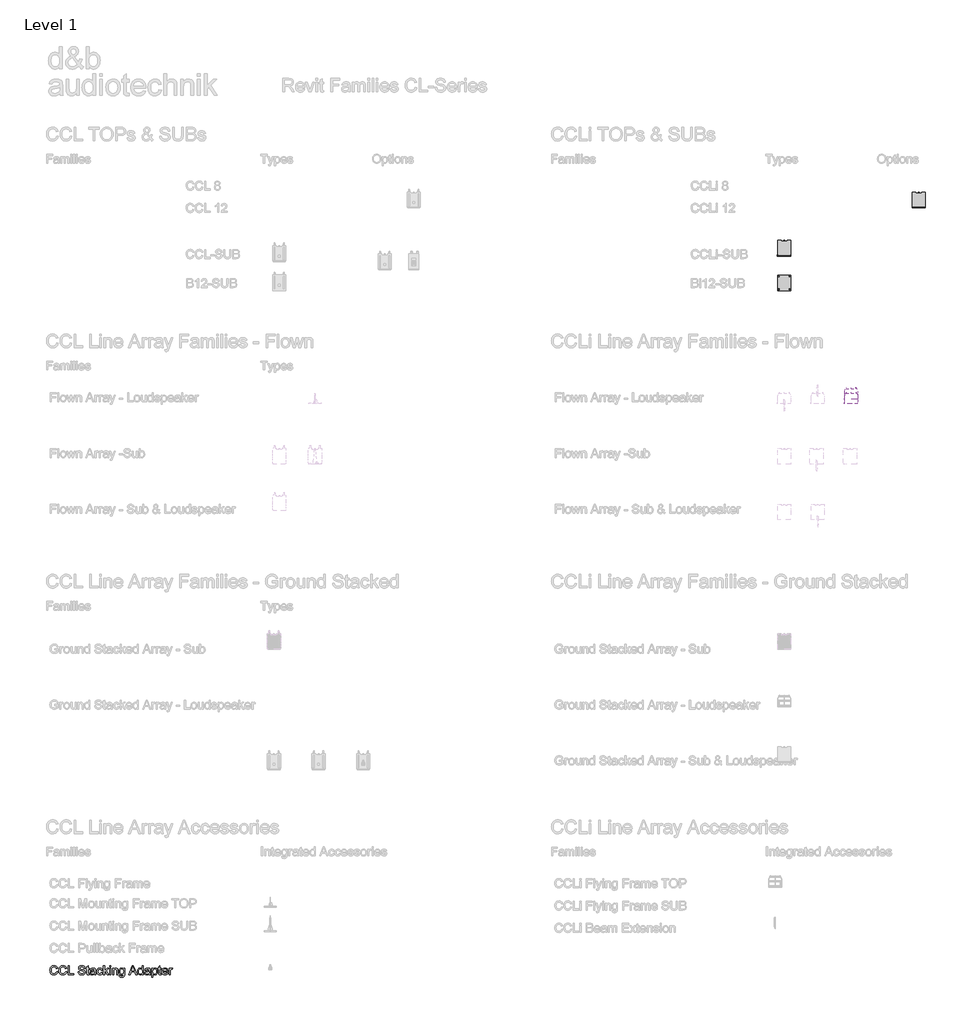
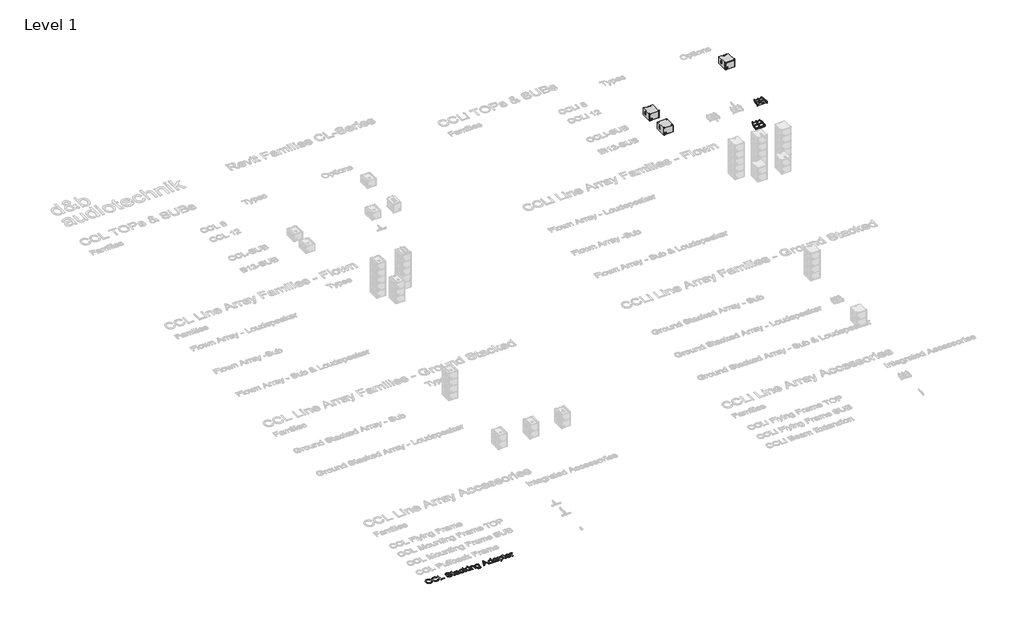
# One storey, part 2 of 31: 6 proxies.
"""IFC4 building model written with IfcOpenShell, lengths in millimetres."""

from ifc_helpers import new_model, si_unit, origin, origin_with_axes, place, context, project, spatial, polyline, outline, extrude, transform, mapped, element, save
from components import communication_devices_898eba8c, communication_devices_964db2fb, communication_devices_adbe50ae, communication_devices_fb72d271, communication_devices_d598217c, communication_devices_39887777, bi12_sub_8aa10a98

model = new_model("IFC4")

# Units and contexts
model_context = context("Model", 3, world=origin())
ifc_project = project(units=[si_unit("LENGTHUNIT", "METRE", prefix="MILLI")], contexts=[model_context])

# Site, building, storey
site = spatial("IfcSite", under=ifc_project)
building = spatial("IfcBuilding", under=site)
storey = spatial("IfcBuildingStorey", under=building, Name="Level 1", Elevation=0.0)

# Proxies
placement = place(None, origin())
communication_devices_shape = communication_devices_898eba8c(model_context)
communication_devices_2_shape = communication_devices_964db2fb(model_context)
element("IfcBuildingElementProxy", 1, Name="d&b CL-Series CCLi-SUB : CCLi-SUB", ObjectType="d&b CL-Series CCLi-SUB : CCLi-SUB", at=placement, inside=storey, context=model_context, shape_type="MappedRepresentation", body=[
    mapped(communication_devices_shape, transform((15496.7377538, 15407.2506327, 0.0), x_axis=(1.0, 0.0, 0.0), y_axis=(0.0, 1.0, 0.0), z_axis=(0.0, 0.0, 1.0))),
    mapped(communication_devices_2_shape, transform((15496.7377538, 15407.2506327, 0.0), x_axis=(1.0, 0.0, 0.0), y_axis=(0.0, 1.0, 0.0), z_axis=(0.0, 0.0, 1.0))),
])
communication_devices_3_shape = communication_devices_adbe50ae(model_context)
communication_devices_4_shape = communication_devices_fb72d271(model_context)
communication_devices_5_shape = communication_devices_d598217c(model_context)
element("IfcBuildingElementProxy", 2, Name="d&b CL-Series CCLi Flying Frame TOP : d&b CL-Series CCLi Flying Frame TOP", ObjectType="d&b CL-Series CCLi Flying Frame TOP : d&b CL-Series CCLi Flying Frame TOP", at=placement, inside=storey, context=model_context, shape_type="MappedRepresentation", body=[
    mapped(communication_devices_3_shape, transform((14971.179764, 6777.0709988, 2340.1027376), x_axis=(-1.0, 0.0, 0.0), y_axis=(0.0, 0.9702957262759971, 0.2419218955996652), z_axis=(0.0, 0.2419218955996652, -0.9702957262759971))),
    mapped(communication_devices_4_shape, transform((14971.179764, 6777.0709988, 2340.1027376), x_axis=(-1.0, 0.0, 0.0), y_axis=(0.0, 0.9702957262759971, 0.2419218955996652), z_axis=(0.0, 0.2419218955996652, -0.9702957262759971))),
    mapped(communication_devices_5_shape, transform((14971.179764, 6777.0709988, 2340.1027376), x_axis=(-1.0, 0.0, 0.0), y_axis=(0.0, 0.9702957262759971, 0.2419218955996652), z_axis=(0.0, 0.2419218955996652, -0.9702957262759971))),
])
element("IfcBuildingElementProxy", 3, Name="d&b CL-Series CCLi-SUB : CCLi-SUB", ObjectType="d&b CL-Series CCLi-SUB : CCLi-SUB", at=placement, inside=storey, context=model_context, shape_type="MappedRepresentation", body=[
    mapped(communication_devices_shape, transform((9471.179764, 13247.2506327, 0.0), x_axis=(1.0, 0.0, 0.0), y_axis=(0.0, 1.0, 0.0), z_axis=(0.0, 0.0, 1.0))),
    mapped(communication_devices_2_shape, transform((9471.179764, 13247.2506327, 0.0), x_axis=(1.0, 0.0, 0.0), y_axis=(0.0, 1.0, 0.0), z_axis=(0.0, 0.0, 1.0))),
])
communication_devices_6_shape = communication_devices_39887777(model_context)
element("IfcBuildingElementProxy", 4, Name="d&b CL-Series CCLi Flying Frame TOP : d&b CL-Series CCLi Flying Frame TOP", ObjectType="d&b CL-Series CCLi Flying Frame TOP : d&b CL-Series CCLi Flying Frame TOP", at=placement, inside=storey, context=model_context, shape_type="MappedRepresentation", body=[
    mapped(communication_devices_6_shape, transform((14971.179764, 6571.9106066, 3985.0), x_axis=(1.0, 0.0, 0.0), y_axis=(0.0, 1.0, 0.0), z_axis=(0.0, 0.0, 1.0))),
    mapped(communication_devices_4_shape, transform((14971.179764, 6571.9106066, 3985.0), x_axis=(1.0, 0.0, 0.0), y_axis=(0.0, 1.0, 0.0), z_axis=(0.0, 0.0, 1.0))),
    mapped(communication_devices_5_shape, transform((14971.179764, 6571.9106066, 3985.0), x_axis=(1.0, 0.0, 0.0), y_axis=(0.0, 1.0, 0.0), z_axis=(0.0, 0.0, 1.0))),
])
element("IfcBuildingElementProxy", 5, Name="400mm Arial", ObjectType="400mm Arial", at=placement, inside=storey, context=model_context, shape_type="SweptSolid", body=[
    extrude(outline(polyline([(-20609.9461568, -18854.6815806), (-20559.7180017, -18867.6310268), (-20569.656947, -18898.8672739), (-20582.8945674, -18926.1610523), (-20599.4308631, -18949.5123619), (-20619.265834, -18968.9212029), (-20641.9518904, -18984.1791086), (-20667.0414425, -18995.0776127), (-20694.5344902, -19001.6167152), (-20724.4310337, -19003.796416), (-20755.0602755, -19002.1470784), (-20782.691279, -18997.1990655), (-20807.3240443, -18988.9523775), (-20828.9585713, -18977.4070142), (-20847.8922313, -18962.734654), (-20864.4223956, -18945.106975), (-20878.5490642, -18924.5239774), (-20890.2722371, -18900.9856611), (-20906.0543747, -18849.1142998), (-20911.3150873, -18793.5641185), (-20905.3676617, -18734.9727794), (-20897.9333797, -18708.6753481), (-20887.5253849, -18684.3767423), (-20874.3766693, -18662.4785666), (-20858.7202247, -18643.3824253), (-20840.5560512, -18627.0883186), (-20819.8841487, -18613.5962464), (-20797.4065588, -18603.0165734), (-20773.8253229, -18595.4596641), (-20723.3519132, -18589.4141366), (-20694.623395, -18591.3700426), (-20668.2799785, -18597.2377604), (-20644.3216636, -18607.0172901), (-20622.7484502, -18620.7086317), (-20603.9159578, -18637.9500345), (-20588.1798054, -18658.379748), (-20575.5399932, -18681.9977721), (-20565.9965211, -18708.8041068), (-20616.2246762, -18720.7725344), (-20633.6377573, -18684.1437504), (-20657.4274596, -18659.0174101), (-20687.8880888, -18644.4860713), (-20725.3139505, -18639.6422917), (-20768.4542458, -18645.0133688), (-20787.1365198, -18651.7272152), (-20803.8935447, -18661.1266002), (-20830.7857185, -18686.2897287), (-20848.2846387, -18718.8104971), (-20857.8863588, -18755.5741711), (-20861.0869322, -18793.4660166), (-20857.2977476, -18839.8681989), (-20845.930194, -18879.9918619), (-20826.5550756, -18912.3041638), (-20798.7431967, -18935.272263), (-20765.4008252, -18948.9942614), (-20729.4342288, -18953.5682609), (-20707.5973667, -18952.0108938), (-20687.5079441, -18947.3387925), (-20669.165961, -18939.5519569), (-20652.5714173, -18928.6503871), (-20638.1167206, -18914.683134), (-20626.1942783, -18897.6992486), (-20616.8040903, -18877.6987308), (-20609.9461568, -18854.6815806)])), origin_with_axes(), (0.0, 0.0, 1.0), 5.0),
    extrude(outline(polyline([(-20208.1209162, -18854.6815806), (-20157.8927611, -18867.6310268), (-20167.8317064, -18898.8672739), (-20181.0693268, -18926.1610523), (-20197.6056225, -18949.5123619), (-20217.4405934, -18968.9212029), (-20240.1266498, -18984.1791086), (-20265.2162019, -18995.0776127), (-20292.7092496, -19001.6167152), (-20322.6057931, -19003.796416), (-20353.2350349, -19002.1470784), (-20380.8660384, -18997.1990655), (-20405.4988037, -18988.9523775), (-20427.1333307, -18977.4070142), (-20446.0669907, -18962.734654), (-20462.597155, -18945.106975), (-20476.7238236, -18924.5239774), (-20488.4469965, -18900.9856611), (-20504.2291341, -18849.1142998), (-20509.4898467, -18793.5641185), (-20503.5424211, -18734.9727794), (-20496.1081391, -18708.6753481), (-20485.7001443, -18684.3767423), (-20472.5514287, -18662.4785666), (-20456.8949841, -18643.3824253), (-20438.7308106, -18627.0883186), (-20418.0589081, -18613.5962464), (-20395.5813182, -18603.0165734), (-20372.0000823, -18595.4596641), (-20321.5266726, -18589.4141366), (-20292.7981544, -18591.3700426), (-20266.4547379, -18597.2377604), (-20242.496423, -18607.0172901), (-20220.9232096, -18620.7086317), (-20202.0907172, -18637.9500345), (-20186.3545648, -18658.379748), (-20173.7147526, -18681.9977721), (-20164.1712805, -18708.8041068), (-20214.3994356, -18720.7725344), (-20231.8125167, -18684.1437504), (-20255.602219, -18659.0174101), (-20286.0628482, -18644.4860713), (-20323.4887099, -18639.6422917), (-20366.6290052, -18645.0133688), (-20385.3112792, -18651.7272152), (-20402.0683041, -18661.1266002), (-20428.9604779, -18686.2897287), (-20446.4593981, -18718.8104971), (-20456.0611182, -18755.5741711), (-20459.2616916, -18793.4660166), (-20455.472507, -18839.8681989), (-20444.1049534, -18879.9918619), (-20424.729835, -18912.3041638), (-20396.9179561, -18935.272263), (-20363.5755846, -18948.9942614), (-20327.6089882, -18953.5682609), (-20305.7721261, -18952.0108938), (-20285.6827035, -18947.3387925), (-20267.3407204, -18939.5519569), (-20250.7461767, -18928.6503871), (-20236.29148, -18914.683134), (-20224.3690377, -18897.6992486), (-20214.9788497, -18877.6987308), (-20208.1209162, -18854.6815806)])), origin_with_axes(), (0.0, 0.0, 1.0), 5.0),
    extrude(outline(polyline([(-20088.8290479, -18997.5178966), (-20088.8290479, -18595.692656), (-20038.6008928, -18595.692656), (-20038.6008928, -18947.2897415), (-19837.6882725, -18947.2897415), (-19837.6882725, -18997.5178966), (-20088.8290479, -18997.5178966)])), origin_with_axes(), (0.0, 0.0, 1.0), 5.0),
    extrude(outline(polyline([(-19643.0541716, -18859.3904702), (-19592.8260165, -18859.3904702), (-19587.0625319, -18887.2636627), (-19576.6392087, -18909.6676762), (-19560.3788246, -18927.4486393), (-19537.104157, -18941.4526805), (-19508.654616, -18950.5393658), (-19476.8696117, -18953.5682609), (-19448.8860546, -18951.2751298), (-19424.3851137, -18944.3957365), (-19404.5317487, -18933.5064294), (-19390.4909192, -18919.1835571), (-19382.1399979, -18902.7392319), (-19379.3563575, -18885.4855663), (-19381.4410221, -18868.6733592), (-19387.695016, -18854.1420204), (-19400.3992076, -18841.7443971), (-19421.8344652, -18831.3333367), (-19494.9694058, -18812.154422), (-19542.9780062, -18799.4624931), (-19573.6961528, -18787.383701), (-19598.6998657, -18770.4856547), (-19616.4195152, -18750.0068903), (-19626.9777284, -18726.3888662), (-19630.4971328, -18700.0730408), (-19626.1438626, -18670.6547439), (-19613.0840517, -18643.2230098), (-19591.6610569, -18619.9728677), (-19562.2182345, -18603.0993468), (-19526.8770375, -18592.8354392), (-19487.7589187, -18589.4141366), (-19445.3789129, -18592.9948547), (-19408.2964078, -18603.737009), (-19377.8357786, -18621.4198702), (-19355.3214005, -18645.8227092), (-19341.0721045, -18675.4249471), (-19335.4067218, -18708.7060049), (-19385.6348769, -18708.7060049), (-19394.8564522, -18678.7358851), (-19403.2196362, -18666.8778221), (-19414.0844178, -18657.1044237), (-19444.1281141, -18644.0078247), (-19485.7968814, -18639.6422917), (-19528.4466674, -18643.9587738), (-19544.7499711, -18649.3543764), (-19557.7055487, -18656.90822), (-19574.6281205, -18675.9645074), (-19580.2689778, -18698.6015128), (-19576.2713268, -18717.9030548), (-19564.2783737, -18733.427675), (-19535.9269346, -18747.309089), (-19482.2652143, -18761.4848085), (-19426.8867112, -18774.9492895), (-19393.3849242, -18786.6969879), (-19364.7514423, -18804.9194094), (-19344.7754499, -18827.409262), (-19333.0400143, -18853.9212912), (-19329.1282024, -18884.2102421), (-19333.6286255, -18915.1736434), (-19347.1298947, -18944.2976346), (-19369.0801871, -18969.3626612), (-19398.9276796, -18988.1491685), (-19434.8206996, -18999.8846041), (-19474.9075743, -19003.796416), (-19524.1179226, -18999.5780358), (-19564.6217302, -18986.9228951), (-19596.8849812, -18965.7819432), (-19621.3736594, -18936.1061289), (-19637.0944833, -18899.9555915), (-19643.0541716, -18859.3904702)])), origin_with_axes(), (0.0, 0.0, 1.0), 5.0),
    extrude(outline(polyline([(-19153.3296596, -18955.6284001), (-19147.0511402, -18998.9894246), (-19184.6241547, -19003.796416), (-19208.7326881, -19001.7117514), (-19226.7098549, -18995.4577574), (-19239.4140465, -18985.8192492), (-19247.7036541, -18973.5810415), (-19252.2653909, -18952.5627168), (-19253.7859698, -18916.5838577), (-19253.7859698, -18752.6556406), (-19291.4570861, -18752.6556406), (-19291.4570861, -18702.4274855), (-19253.7859698, -18702.4274855), (-19253.7859698, -18630.715022), (-19203.5578147, -18601.1863605), (-19203.5578147, -18702.4274855), (-19153.3296596, -18702.4274855), (-19153.3296596, -18752.6556406), (-19203.5578147, -18752.6556406), (-19203.5578147, -18915.1123297), (-19200.9090643, -18941.0112221), (-19192.3251511, -18950.1837466), (-19175.2063756, -18953.5682609), (-19153.3296596, -18955.6284001)])), origin_with_axes(), (0.0, 0.0, 1.0), 5.0),
    extrude(outline(polyline([(-18914.745923, -18959.8467803), (-18938.7440918, -18980.4236466), (-18963.4534992, -18993.8881276), (-18989.4382308, -19001.3193439), (-19017.2623723, -19003.796416), (-19039.626532, -19002.3064939), (-19059.237708, -18997.8367277), (-19076.0959004, -18990.3871173), (-19090.2011093, -18979.9576627), (-19101.3387367, -18967.2105516), (-19109.2941848, -18952.8079715), (-19114.0674537, -18936.7499224), (-19115.6585433, -18919.0364043), (-19113.2550476, -18898.2142834), (-19106.0445605, -18879.3051488), (-19094.9222615, -18863.118341), (-19080.7833302, -18850.4632004), (-19064.1673267, -18840.8982685), (-19045.6138114, -18833.982087), (-19002.1546851, -18826.4282434), (-18950.7983586, -18818.4819923), (-18915.0402286, -18809.1623151), (-18914.745923, -18797.9787024), (-18918.2040138, -18775.5624262), (-18928.578286, -18760.8961973), (-18951.7793772, -18750.0068903), (-18984.1039419, -18746.3771212), (-19014.0250108, -18748.7928797), (-19034.9207081, -18756.040155), (-19049.1700041, -18769.4433223), (-19059.1518689, -18790.3267569), (-19109.3800239, -18784.0482375), (-19100.6612207, -18756.5797152), (-19087.6504608, -18734.9973049), (-19069.1337337, -18718.491666), (-19043.8970288, -18706.2534583), (-19013.0317294, -18698.6750892), (-18977.6292187, -18696.1489662), (-18943.6737106, -18698.3807836), (-18916.7570113, -18705.0762359), (-18896.4621879, -18715.1439398), (-18882.3723075, -18727.4925121), (-18873.0281048, -18742.7596149), (-18866.9703146, -18761.5829104), (-18864.517768, -18805.5325461), (-18864.517768, -18868.0234343), (-18861.9671195, -18955.2850436), (-18851.9607292, -18997.5178966), (-18902.1888843, -18997.5178966), (-18910.2332372, -18980.0557646), (-18914.745923, -18959.8467803)]), holes=[polyline([(-18914.745923, -18859.3904702), (-18948.4929647, -18867.7536542), (-18995.7780638, -18874.792463), (-19038.9919355, -18882.9349178), (-19050.2368619, -18888.5021987), (-19058.5632577, -18896.1786697), (-19063.7136056, -18905.3757195), (-19065.4303883, -18915.5047372), (-19061.6902546, -18930.4407462), (-19050.4698538, -18942.6789539), (-19032.0144404, -18950.8459342), (-19006.569269, -18953.5682609), (-18979.591256, -18950.5638913), (-18955.7525028, -18941.5507824), (-18936.4264353, -18928.2702424), (-18922.9864797, -18912.4635793), (-18917.0267914, -18896.1786697), (-18915.0402286, -18873.6152406), (-18914.745923, -18859.3904702)])]), origin_with_axes(), (0.0, 0.0, 1.0), 5.0),
    extrude(outline(polyline([(-18607.0984732, -18890.7830671), (-18556.8703181, -18897.0615865), (-18562.3333657, -18920.762384), (-18570.8743594, -18941.7347234), (-18582.4932991, -18959.9786047), (-18597.1901848, -18975.4940278), (-18614.3457485, -18987.8763227), (-18633.3407222, -18996.720819), (-18654.1751058, -19002.0275167), (-18676.8488995, -19003.796416), (-18705.0194633, -19001.3285409), (-18730.2776279, -18993.9249158), (-18752.6233934, -18981.5855405), (-18772.0567598, -18964.3104152), (-18787.7867808, -18942.4245021), (-18799.0225101, -18916.2527639), (-18805.7639476, -18885.7952004), (-18808.0110935, -18851.0518116), (-18804.172858, -18806.3541492), (-18792.6581516, -18767.6161751), (-18773.2830331, -18736.3339428), (-18745.8635618, -18714.0035057), (-18713.0607505, -18700.612601), (-18677.5356125, -18696.1489662), (-18655.2511607, -18697.6818078), (-18635.094293, -18702.2803327), (-18617.0650096, -18709.944541), (-18601.1633103, -18720.6744325), (-18587.6589754, -18734.2247527), (-18576.821785, -18750.3502468), (-18568.651739, -18769.0509149), (-18563.1488375, -18790.3267569), (-18613.3769926, -18796.6052763), (-18622.4882033, -18774.6917721), (-18636.6761856, -18758.9832109), (-18655.1561245, -18749.5286437), (-18677.1432051, -18746.3771212), (-18694.209864, -18747.928357), (-18709.6026598, -18752.5820642), (-18723.3215925, -18760.338243), (-18735.3666622, -18771.1968932), (-18745.173783, -18785.4094009), (-18752.1788694, -18803.2271522), (-18756.3819212, -18824.6501471), (-18757.7829384, -18849.6783855), (-18752.3014967, -18896.7550181), (-18745.4496945, -18914.6923311), (-18735.8571715, -18928.8956418), (-18724.0512251, -18939.6899126), (-18710.559153, -18947.4001061), (-18695.380955, -18952.0262222), (-18678.5166312, -18953.5682609), (-18652.5073741, -18949.7177627), (-18631.1824811, -18938.1662681), (-18615.6701237, -18918.6194714), (-18607.0984732, -18890.7830671)])), origin_with_axes(), (0.0, 0.0, 1.0), 5.0),
    extrude(outline(polyline([(-18512.9206824, -18997.5178966), (-18512.9206824, -18595.692656), (-18462.6925274, -18595.692656), (-18462.6925274, -18811.6148617), (-18350.0715859, -18702.4274855), (-18280.6154652, -18702.4274855), (-18394.7079346, -18812.9882878), (-18274.3369458, -18997.5178966), (-18333.0018613, -18997.5178966), (-18430.7113192, -18847.9125519), (-18462.6925274, -18879.0108432), (-18462.6925274, -18997.5178966), (-18512.9206824, -18997.5178966)])), origin_with_axes(), (0.0, 0.0, 1.0), 5.0),
    extrude(outline(polyline([(-18230.3873101, -18645.9208111), (-18230.3873101, -18595.692656), (-18180.1591551, -18595.692656), (-18180.1591551, -18645.9208111), (-18230.3873101, -18645.9208111)])), origin_with_axes(), (0.0, 0.0, 1.0), 5.0),
    extrude(outline(polyline([(-18230.3873101, -18997.5178966), (-18230.3873101, -18702.4274855), (-18180.1591551, -18702.4274855), (-18180.1591551, -18997.5178966), (-18230.3873101, -18997.5178966)])), origin_with_axes(), (0.0, 0.0, 1.0), 5.0),
    extrude(outline(polyline([(-18104.8169224, -18997.5178966), (-18104.8169224, -18702.4274855), (-18054.5887674, -18702.4274855), (-18054.5887674, -18743.630269), (-18037.1388981, -18722.857199), (-18016.1818871, -18708.0192919), (-17991.7177344, -18699.1165476), (-17963.74644, -18696.1489662), (-17938.9879818, -18698.5401991), (-17916.3141881, -18705.713898), (-17897.4050536, -18716.7748834), (-17883.9405725, -18730.8279756), (-17874.8048363, -18747.8363865), (-17868.8819362, -18767.7633279), (-17866.2331858, -18816.3237513), (-17866.2331858, -18997.5178966), (-17916.4613409, -18997.5178966), (-17916.4613409, -18823.09278), (-17917.9083434, -18797.1203111), (-17922.249351, -18778.6526349), (-17930.2569157, -18765.4211459), (-17942.7035899, -18755.1572382), (-17958.6574058, -18748.5721505), (-17977.1863956, -18746.3771212), (-18006.6046925, -18751.30674), (-18031.6819818, -18766.0955962), (-18041.7037005, -18778.168257), (-18048.862071, -18794.6677645), (-18053.1570933, -18815.5941186), (-18054.5887674, -18840.9473195), (-18054.5887674, -18997.5178966), (-18104.8169224, -18997.5178966)])), origin_with_axes(), (0.0, 0.0, 1.0), 5.0),
    extrude(outline(polyline([(-17809.7265114, -19022.6319741), (-17759.4983563, -19028.9104935), (-17753.9556009, -19044.606792), (-17743.2134467, -19055.3979972), (-17722.0970201, -19063.7857067), (-17694.4568196, -19066.5816098), (-17664.977209, -19063.4178247), (-17643.0514421, -19053.9264692), (-17627.845653, -19038.7206801), (-17618.5259758, -19018.4135939), (-17615.0924105, -18959.8467803), (-17631.8065158, -18976.3278937), (-17650.4581329, -18988.1001175), (-17671.0472619, -18995.1634518), (-17693.5739028, -18997.5178966), (-17721.1129358, -18994.7771757), (-17745.359425, -18986.5550132), (-17766.3133703, -18972.8514088), (-17783.9747717, -18953.6663628), (-17797.9880101, -18930.6492126), (-17807.997466, -18905.4492959), (-17814.0031396, -18878.0666128), (-17816.0050308, -18848.5011631), (-17812.4120499, -18807.9483045), (-17801.6331075, -18770.6573329), (-17784.0483481, -18739.0562695), (-17760.0379166, -18715.5731355), (-17730.423416, -18701.0050085), (-17696.0264494, -18696.1489662), (-17672.537184, -18698.8958184), (-17651.2184224, -18707.1363751), (-17632.0701645, -18720.8706362), (-17615.0924105, -18740.0986019), (-17615.0924105, -18702.4274855), (-17564.8642554, -18702.4274855), (-17564.8642554, -18957.1980299), (-17568.2978207, -19016.022361), (-17578.5985165, -19054.7603351), (-17596.3426914, -19080.4507611), (-17622.1066938, -19100.1324478), (-17655.326438, -19112.6404356), (-17695.4378382, -19116.8097649), (-17720.046078, -19115.3413026), (-17742.1711143, -19110.9359157), (-17761.8129472, -19103.5936042), (-17778.9715766, -19093.3143682), (-17792.8315308, -19080.0859447), (-17802.5773379, -19063.8960713), (-17808.2089982, -19044.7447477), (-17809.7265114, -19022.6319741)]), holes=[polyline([(-17765.7768757, -18845.0675978), (-17760.4180613, -18891.1386863), (-17753.7195433, -18908.7755623), (-17744.3416181, -18922.8133261), (-17732.9403419, -18933.5217579), (-17720.171771, -18941.1706377), (-17706.0359054, -18945.7599656), (-17690.5327449, -18947.2897415), (-17675.1828687, -18945.7691626), (-17661.1144481, -18941.2074259), (-17648.327483, -18933.6045313), (-17636.8219736, -18922.9604789), (-17627.3152898, -18909.0606709), (-17620.5248013, -18891.6905093), (-17615.0924105, -18846.5391258), (-17620.6842168, -18802.9941603), (-17627.6739747, -18785.7926113), (-17637.4596358, -18771.6383516), (-17649.2134655, -18760.5865633), (-17662.1077294, -18752.6924288), (-17676.1424276, -18747.9559481), (-17691.3175599, -18746.3771212), (-17706.2382405, -18747.9314227), (-17720.0000928, -18752.594327), (-17744.0473125, -18771.2459441), (-17753.5539964, -18785.185606), (-17760.3444849, -18802.135769), (-17765.7768757, -18845.0675978)])]), origin_with_axes(), (0.0, 0.0, 1.0), 5.0),
    extrude(outline(polyline([(-17372.9770067, -18997.5178966), (-17212.5804568, -18595.692656), (-17169.8080435, -18595.692656), (-17009.5095955, -18997.5178966), (-17062.5827046, -18997.5178966), (-17108.4943776, -18871.9475089), (-17274.0903264, -18871.9475089), (-17320.0019994, -18997.5178966), (-17372.9770067, -18997.5178966)]), holes=[polyline([(-17255.6471757, -18821.7193538), (-17126.8394265, -18821.7193538), (-17163.1371167, -18722.9307754), (-17191.292352, -18645.9208111), (-17216.3083277, -18714.2978113), (-17255.6471757, -18821.7193538)])]), origin_with_axes(), (0.0, 0.0, 1.0), 5.0),
    extrude(outline(polyline([(-16780.0493323, -18997.5178966), (-16780.0493323, -18950.1346956), (-16795.0773119, -18973.6116983), (-16813.2813392, -18990.3809859), (-16834.6614145, -19000.4425585), (-16859.2175377, -19003.796416), (-16891.6892552, -18998.9403737), (-16921.4141204, -18984.3722466), (-16946.5772488, -18961.1098418), (-16965.3637561, -18930.170966), (-16977.0624035, -18892.806418), (-16980.9619526, -18850.2669967), (-16977.3689718, -18808.2548728), (-16966.5900294, -18770.3139764), (-16948.637388, -18738.6025484), (-16923.5233105, -18715.2788299), (-16893.1485204, -18700.9314321), (-16859.4137414, -18696.1489662), (-16834.8392242, -18699.5702687), (-16813.109661, -18709.8341764), (-16794.6910358, -18725.567263), (-16780.0493323, -18745.3961026), (-16780.0493323, -18595.692656), (-16729.8211773, -18595.692656), (-16729.8211773, -18997.5178966), (-16780.0493323, -18997.5178966)]), holes=[polyline([(-16930.7337976, -18850.0707929), (-16929.3174519, -18874.4276467), (-16925.0684148, -18895.5042193), (-16917.9866864, -18913.3005109), (-16908.0722667, -18927.8165213), (-16883.3751221, -18947.130326), (-16869.4998395, -18951.9587772), (-16854.60675, -18953.5682609), (-16839.6431499, -18952.0323536), (-16825.8506407, -18947.4246316), (-16801.7788955, -18928.9937436), (-16792.2722116, -18915.0847385), (-16785.4817231, -18897.9322405), (-16780.0493323, -18853.8967657), (-16785.579825, -18805.7532753), (-16792.4929408, -18787.2181541), (-16802.171303, -18772.3741156), (-16813.8730161, -18761.0004305), (-16826.8561849, -18752.8763698), (-16841.1208092, -18748.0019334), (-16856.6668892, -18746.3771212), (-16871.8542842, -18747.937554), (-16885.7295668, -18752.6188524), (-16898.292737, -18760.4210164), (-16909.5437946, -18771.344046), (-16918.8144209, -18785.6270644), (-16925.4362968, -18803.5091951), (-16930.7337976, -18850.0707929)])]), origin_with_axes(), (0.0, 0.0, 1.0), 5.0),
    extrude(outline(polyline([(-16466.1233631, -18959.8467803), (-16490.1215319, -18980.4236466), (-16514.8309393, -18993.8881276), (-16540.8156709, -19001.3193439), (-16568.6398125, -19003.796416), (-16591.0039721, -19002.3064939), (-16610.6151481, -18997.8367277), (-16627.4733405, -18990.3871173), (-16641.5785494, -18979.9576627), (-16652.7161768, -18967.2105516), (-16660.6716249, -18952.8079715), (-16665.4448938, -18936.7499224), (-16667.0359834, -18919.0364043), (-16664.6324877, -18898.2142834), (-16657.4220006, -18879.3051488), (-16646.2997016, -18863.118341), (-16632.1607703, -18850.4632004), (-16615.5447668, -18840.8982685), (-16596.9912515, -18833.982087), (-16553.5321252, -18826.4282434), (-16502.1757987, -18818.4819923), (-16466.4176687, -18809.1623151), (-16466.1233631, -18797.9787024), (-16469.5814539, -18775.5624262), (-16479.9557261, -18760.8961973), (-16503.1568173, -18750.0068903), (-16535.481382, -18746.3771212), (-16565.4024509, -18748.7928797), (-16586.2981482, -18756.040155), (-16600.5474442, -18769.4433223), (-16610.529309, -18790.3267569), (-16660.757464, -18784.0482375), (-16652.0386608, -18756.5797152), (-16639.0279009, -18734.9973049), (-16620.5111738, -18718.491666), (-16595.2744689, -18706.2534583), (-16564.4091695, -18698.6750892), (-16529.0066588, -18696.1489662), (-16495.0511507, -18698.3807836), (-16468.1344514, -18705.0762359), (-16447.839628, -18715.1439398), (-16433.7497476, -18727.4925121), (-16424.4055449, -18742.7596149), (-16418.3477547, -18761.5829104), (-16415.8952081, -18805.5325461), (-16415.8952081, -18868.0234343), (-16413.3445596, -18955.2850436), (-16403.3381693, -18997.5178966), (-16453.5663244, -18997.5178966), (-16461.6106773, -18980.0557646), (-16466.1233631, -18959.8467803)]), holes=[polyline([(-16466.1233631, -18859.3904702), (-16499.8704048, -18867.7536542), (-16547.1555039, -18874.792463), (-16590.3693756, -18882.9349178), (-16601.614302, -18888.5021987), (-16609.9406978, -18896.1786697), (-16615.0910457, -18905.3757195), (-16616.8078284, -18915.5047372), (-16613.0676947, -18930.4407462), (-16601.8472939, -18942.6789539), (-16583.3918805, -18950.8459342), (-16557.9467091, -18953.5682609), (-16530.9686961, -18950.5638913), (-16507.1299429, -18941.5507824), (-16487.8038754, -18928.2702424), (-16474.3639198, -18912.4635793), (-16468.4042315, -18896.1786697), (-16466.4176687, -18873.6152406), (-16466.1233631, -18859.3904702)])]), origin_with_axes(), (0.0, 0.0, 1.0), 5.0),
    extrude(outline(polyline([(-16346.8314948, -19110.5312455), (-16346.8314948, -18702.4274855), (-16296.6033398, -18702.4274855), (-16296.6033398, -18751.674622), (-16280.2203282, -18727.3821476), (-16261.8752794, -18710.0303801), (-16240.4890728, -18699.6193196), (-16214.9825878, -18696.1489662), (-16181.0148169, -18701.0050085), (-16151.3144771, -18715.5731355), (-16127.1323673, -18738.9704304), (-16109.7192862, -18770.3139764), (-16099.1978611, -18807.3229051), (-16095.6907195, -18847.7163482), (-16099.6515823, -18890.6727025), (-16111.5341707, -18929.0918455), (-16130.9583401, -18961.0240027), (-16157.5439456, -18984.5193994), (-16188.5073468, -18998.9771619), (-16221.0649034, -19003.796416), (-16244.15563, -19000.5713172), (-16264.7692844, -18990.8960207), (-16282.4153575, -18976.2911055), (-16296.6033398, -18958.2771505), (-16296.6033398, -19110.5312455), (-16346.8314948, -19110.5312455)]), holes=[polyline([(-16296.6033398, -18852.3271358), (-16291.170949, -18897.3558921), (-16284.3804605, -18914.7934986), (-16274.8737766, -18928.8465908), (-16250.8265568, -18947.3878434), (-16237.0647045, -18952.0231565), (-16222.1440239, -18953.5682609), (-16207.0087455, -18951.9679742), (-16192.9955072, -18947.1671142), (-16180.1043089, -18939.1656808), (-16168.3351508, -18927.9636741), (-16158.5280299, -18913.4016784), (-16151.5229436, -18895.3202783), (-16147.3198918, -18873.7194739), (-16145.9188745, -18848.599265), (-16151.3880535, -18803.8157634), (-16158.2245273, -18786.2432668), (-16167.7955905, -18771.8836062), (-16191.8060221, -18752.7537425), (-16205.4115245, -18747.9712765), (-16220.0838848, -18746.3771212), (-16234.7102597, -18748.0724441), (-16248.4721121, -18753.1584127), (-16273.4022486, -18773.502287), (-16283.552726, -18788.6007772), (-16290.803067, -18806.7710821), (-16295.1532716, -18828.0132016), (-16296.6033398, -18852.3271358)])]), origin_with_axes(), (0.0, 0.0, 1.0), 5.0),
    extrude(outline(polyline([(-15932.4492155, -18955.6284001), (-15926.1706961, -18998.9894246), (-15963.7437105, -19003.796416), (-15987.8522439, -19001.7117514), (-16005.8294108, -18995.4577574), (-16018.5336023, -18985.8192492), (-16026.82321, -18973.5810415), (-16031.3849467, -18952.5627168), (-16032.9055256, -18916.5838577), (-16032.9055256, -18752.6556406), (-16070.5766419, -18752.6556406), (-16070.5766419, -18702.4274855), (-16032.9055256, -18702.4274855), (-16032.9055256, -18630.715022), (-15982.6773705, -18601.1863605), (-15982.6773705, -18702.4274855), (-15932.4492155, -18702.4274855), (-15932.4492155, -18752.6556406), (-15982.6773705, -18752.6556406), (-15982.6773705, -18915.1123297), (-15980.0286202, -18941.0112221), (-15971.4447069, -18950.1837466), (-15954.3259314, -18953.5682609), (-15932.4492155, -18955.6284001)])), origin_with_axes(), (0.0, 0.0, 1.0), 5.0),
    extrude(outline(polyline([(-15675.6185319, -18909.6186252), (-15626.3713955, -18915.8971446), (-15633.9221734, -18935.6217509), (-15644.1155704, -18953.0041752), (-15656.9515863, -18968.0444174), (-15672.4302213, -18980.7424776), (-15690.3920597, -18990.8285757), (-15710.677686, -18998.0329314), (-15758.2203025, -19003.796416), (-15789.3860389, -19001.3101468), (-15817.1549982, -18993.8513394), (-15841.5271804, -18981.4199936), (-15862.5025854, -18964.0161096), (-15879.3699749, -18942.1240652), (-15891.4181103, -18916.2282384), (-15898.6469915, -18886.3286292), (-15901.0566185, -18852.4252377), (-15898.622466, -18817.3722149), (-15891.3200084, -18786.4762587), (-15879.1492457, -18759.737369), (-15862.110178, -18737.1555459), (-15841.1899552, -18719.2151673), (-15817.3757274, -18706.4006111), (-15790.6674945, -18698.7118774), (-15761.0652566, -18696.1489662), (-15732.4164463, -18698.705746), (-15706.5083568, -18706.3760856), (-15683.3409881, -18719.159985), (-15662.9143403, -18737.057444), (-15646.2400889, -18759.5902162), (-15634.3299093, -18786.280055), (-15627.1838015, -18817.1269603), (-15624.8017656, -18852.1309321), (-15625.0960712, -18865.6689895), (-15850.8284635, -18865.6689895), (-15847.91913, -18885.7124269), (-15842.1341856, -18903.2665294), (-15833.4736303, -18918.3312971), (-15821.9374641, -18930.90673), (-15808.1633491, -18940.8211498), (-15792.7889474, -18947.9028782), (-15757.2392839, -18953.5682609), (-15730.5065256, -18950.944036), (-15707.9921475, -18943.0713613), (-15689.6961496, -18929.4597275), (-15675.6185319, -18909.6186252)]), holes=[polyline([(-15850.8284635, -18815.4408345), (-15675.0299207, -18815.4408345), (-15681.8234749, -18788.9042799), (-15695.1408031, -18769.9215689), (-15708.8382761, -18759.6208731), (-15724.4242099, -18752.2632332), (-15741.8986047, -18747.8486492), (-15761.2614604, -18746.3771212), (-15795.1188667, -18751.073748), (-15823.1146865, -18765.1636285), (-15842.575644, -18787.1261836), (-15850.8284635, -18815.4408345)])]), origin_with_axes(), (0.0, 0.0, 1.0), 5.0),
    extrude(outline(polyline([(-15574.5736106, -18997.5178966), (-15574.5736106, -18702.4274855), (-15530.6239749, -18702.4274855), (-15530.6239749, -18746.0828156), (-15514.3881161, -18720.7725344), (-15499.4275817, -18705.8610508), (-15484.4179963, -18698.5769873), (-15468.0349847, -18696.1489662), (-15443.0190091, -18700.0239898), (-15417.6106259, -18711.6490609), (-15434.3860449, -18756.6778171), (-15452.0443807, -18748.9522952), (-15469.7027165, -18746.3771212), (-15484.7000391, -18748.8541933), (-15498.1032065, -18756.2854096), (-15508.9311999, -18768.1066844), (-15516.2030007, -18783.7539319), (-15522.3098418, -18811.8110654), (-15524.3454555, -18842.4188474), (-15524.3454555, -18997.5178966), (-15574.5736106, -18997.5178966)])), origin_with_axes(), (0.0, 0.0, 1.0), 5.0),
])
bi12_sub_shape = bi12_sub_8aa10a98(model_context)
element("IfcBuildingElementProxy", 6, Name="d&b CL-Series Bi12-SUB : Bi12-SUB", ObjectType="d&b CL-Series Bi12-SUB : Bi12-SUB", at=placement, inside=storey, context=model_context, shape_type="MappedRepresentation", body=[
    mapped(bi12_sub_shape, transform((9471.179764, 11707.2506327, 0.0), x_axis=(1.0, 0.0, 0.0), y_axis=(0.0, 1.0, 0.0), z_axis=(0.0, 0.0, 1.0))),
])

save(model, "model.ifc")
